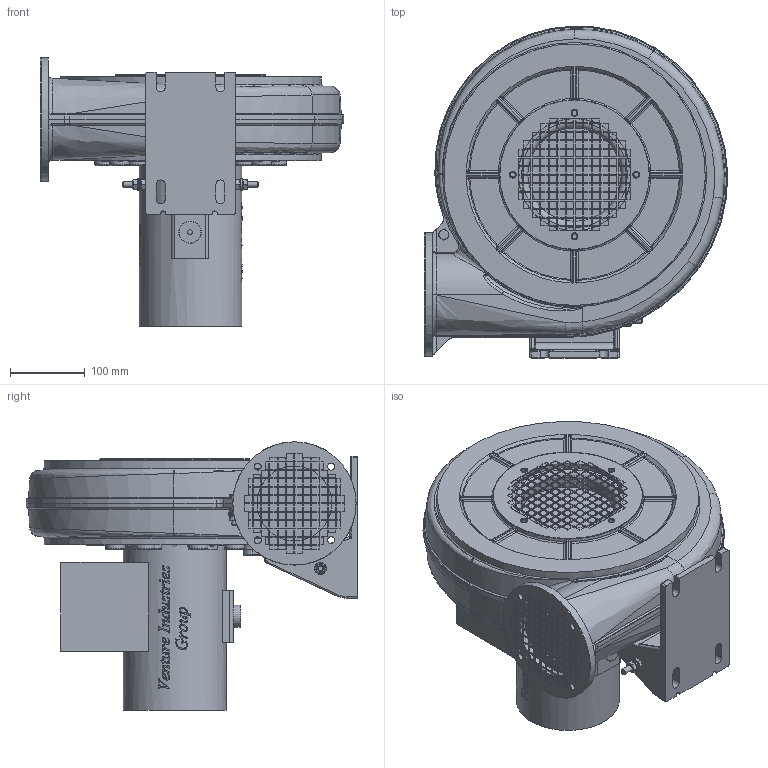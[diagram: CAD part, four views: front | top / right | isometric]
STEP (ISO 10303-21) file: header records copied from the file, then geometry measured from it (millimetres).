
FILE_DESCRIPTION(/* description */ (''),/* implementation_level */ '2;1');
FILE_NAME(/* name */ 'E:\Mariusz\Modele uproszczone\EBA\EBA 40\EBA_X_40X LG270 45519200\EBA_X_40X LG270 45519200.stp',/* time_stamp */ '2020-02-03T14:18:57+01:00',/* author */ ('M.Janczarek'),/* organization */ (''),/* preprocessor_version */ 'ST-DEVELOPER v16.13',/* originating_system */ 'Autodesk Inventor 2018',/* authorisation */ '');
FILE_SCHEMA (('AUTOMOTIVE_DESIGN { 1 0 10303 214 3 1 1 }'));
Products named in the file (1): EBA_X_40X LG270 45519200
Bounding box: 405.93 x 443.9 x 359.25 mm (x, y, z)
Volume: 18539535.6 mm3; surface area: 743545.5 mm2
Topology: 1 solids, 1 shells, 2983 faces, 8122 edges, 5177 vertices
Faces by surface type: plane 1588, bspline 827, cylinder 289, torus 108, cone 97, sphere 74
Full cylindrical faces by diameter (mm): 6.647 x5, 8 x5, 8.4 x4, 9.2 x8, 9.5 x4, 11.4 x3, 15 x1, 15.2 x1, 16 x5, 26 x1, 30 x1, 100 x1, 137.7 x1, 150 x1, 165 x2, 200 x1, 350 x2
Entity records: 118319 total; most frequent: CARTESIAN_POINT 45199, ORIENTED_EDGE 15936, DIRECTION 12123, EDGE_CURVE 7968, VERTEX_POINT 5136, LINE 5009, VECTOR 5009, EDGE_LOOP 3608
